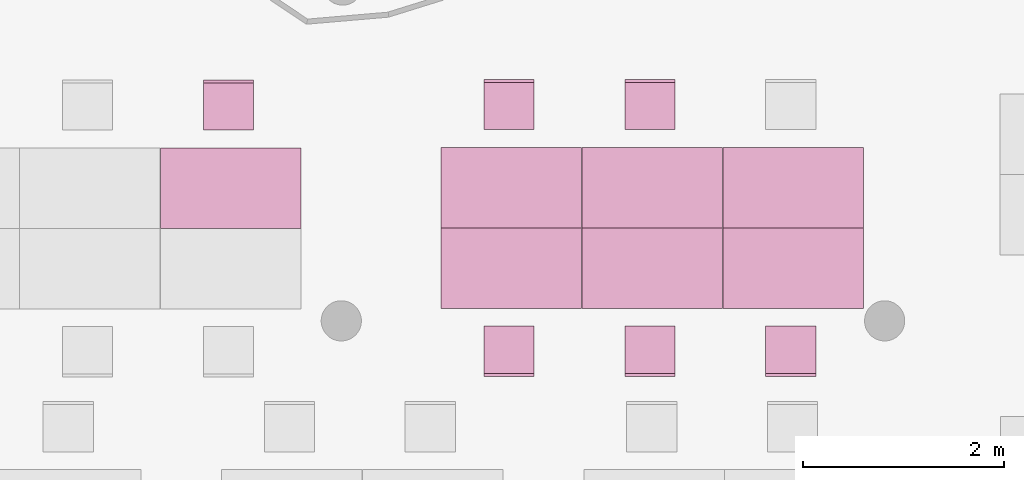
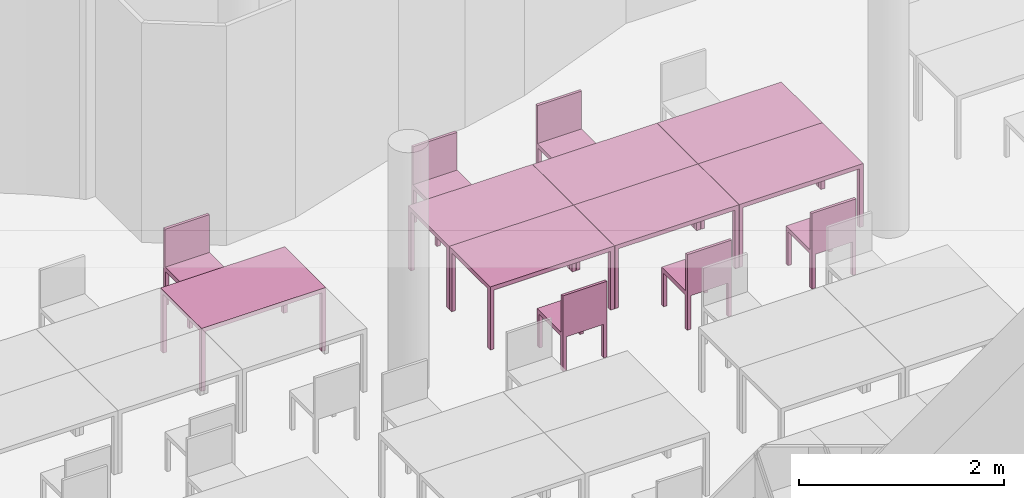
"""IFC4 building model written with IfcOpenShell, lengths in metres."""

from ifc_helpers import new_model, entity, si_unit, converted_unit, derived_unit, frame, origin, place, context, subcontext, project, spatial, faceted_brep, element, save


model = new_model("IFC4")

# Units and contexts
model_context = context("Model", 3, precision=1e-05, world=origin())
body_context = subcontext(model_context, "Body", "Model", "MODEL_VIEW")
ifc_project = project(units=[si_unit("LENGTHUNIT", "METRE"), si_unit("AREAUNIT", "SQUARE_METRE"), si_unit("VOLUMEUNIT", "CUBIC_METRE"), si_unit("MASSUNIT", "GRAM", prefix="KILO"), converted_unit("PLANEANGLEUNIT", "DEGREE", entity("IfcPlaneAngleMeasure", 0.0174532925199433), si_unit("PLANEANGLEUNIT", "RADIAN"), dimensions=[0, 0, 0, 0, 0, 0, 0]), derived_unit("THERMALTRANSMITTANCEUNIT", [(si_unit("POWERUNIT", "WATT"), 1), (si_unit("THERMODYNAMICTEMPERATUREUNIT", "KELVIN"), -1), (si_unit("LENGTHUNIT", "METRE"), -2)]), derived_unit("VOLUMETRICFLOWRATEUNIT", [(si_unit("LENGTHUNIT", "METRE"), 3), (converted_unit("TIMEUNIT", "hour", entity("IfcTimeMeasure", 3600.0), si_unit("TIMEUNIT", "SECOND"), dimensions=[0, 0, 1, 0, 0, 0, 0]), -1), (si_unit("LENGTHUNIT", "METRE"), -1)])], contexts=[model_context])

# Building, storeys
building_placement = place(None, origin())
building = spatial("IfcBuilding", under=ifc_project, at=building_placement, Name="HABITATGE PLURIFAMILIAR", CompositionType="ELEMENT")
storey_1_placement = place(building_placement, frame((0.0, 0.0, 18.29)))
storey_1 = spatial("IfcBuildingStorey", under=building, at=storey_1_placement, Name="PLANTA CINQUENA", CompositionType="ELEMENT", Elevation=18.29)
storey_2_placement = place(storey_1_placement, frame((0.0, 0.0, 15.28)))
storey_2 = spatial("IfcBuildingStorey", under=storey_1, at=storey_2_placement, Name="NOU", CompositionType="PARTIAL")

# Furniture
furniture_1_placement = place(storey_2_placement, frame((408.936421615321, 18.7194567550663, -15.28)))
element("IfcFurniture", 1, at=furniture_1_placement, inside=storey_2, Name="Taula 140X80_P5", context=body_context, shape_type="Brep", body=[
    faceted_brep([(0.04375, 0.05, 0.0), (0.0, 0.05, 0.0), (0.0, 0.0, 0.0), (0.04375, 0.0, 0.0), (0.04375, 0.0, 0.7), (0.0, 0.0, 0.7), (0.0, 0.05, 0.7), (0.04375, 0.05, 0.7)], [[[0, 1, 2, 3]], [[4, 5, 6, 7]], [[3, 4, 7, 0]], [[2, 5, 4, 3]], [[1, 6, 5, 2]], [[0, 7, 6, 1]]], orient=[[False], [False], [False], [False], [False], [False]]),
    faceted_brep([(0.04375, 0.800069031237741, 0.0), (0.0, 0.800069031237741, 0.0), (0.0, 0.750069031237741, 0.0), (0.04375, 0.750069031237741, 0.0), (0.04375, 0.750069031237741, 0.7), (0.0, 0.750069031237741, 0.7), (0.0, 0.800069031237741, 0.7), (0.04375, 0.800069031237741, 0.7)], [[[0, 1, 2, 3]], [[4, 5, 6, 7]], [[3, 4, 7, 0]], [[2, 5, 4, 3]], [[1, 6, 5, 2]], [[0, 7, 6, 1]]], orient=[[False], [False], [False], [False], [False], [False]]),
    faceted_brep([(1.39732768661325, 0.800069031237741, 0.7), (0.0, 0.800069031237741, 0.7), (0.0, 0.0, 0.7), (1.39732768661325, 0.0, 0.7), (1.39732768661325, 0.0, 0.75), (0.0, 0.0, 0.75), (0.0, 0.800069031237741, 0.75), (1.39732768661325, 0.800069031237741, 0.75)], [[[0, 1, 2, 3]], [[4, 5, 6, 7]], [[3, 4, 7, 0]], [[2, 5, 4, 3]], [[1, 6, 5, 2]], [[0, 7, 6, 1]]], orient=[[False], [False], [False], [False], [False], [False]]),
    faceted_brep([(1.39732768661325, 0.05, 0.0), (1.35357768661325, 0.05, 0.0), (1.35357768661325, 0.0, 0.0), (1.39732768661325, 0.0, 0.0), (1.39732768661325, 0.0, 0.7), (1.35357768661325, 0.0, 0.7), (1.35357768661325, 0.05, 0.7), (1.39732768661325, 0.05, 0.7)], [[[0, 1, 2, 3]], [[4, 5, 6, 7]], [[3, 4, 7, 0]], [[2, 5, 4, 3]], [[1, 6, 5, 2]], [[0, 7, 6, 1]]], orient=[[False], [False], [False], [False], [False], [False]]),
    faceted_brep([(1.39732768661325, 0.800069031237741, 0.0), (1.35357768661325, 0.800069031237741, 0.0), (1.35357768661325, 0.750069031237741, 0.0), (1.39732768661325, 0.750069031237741, 0.0), (1.39732768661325, 0.750069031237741, 0.7), (1.35357768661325, 0.750069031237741, 0.7), (1.35357768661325, 0.800069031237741, 0.7), (1.39732768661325, 0.800069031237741, 0.7)], [[[0, 1, 2, 3]], [[4, 5, 6, 7]], [[3, 4, 7, 0]], [[2, 5, 4, 3]], [[1, 6, 5, 2]], [[0, 7, 6, 1]]], orient=[[False], [False], [False], [False], [False], [False]]),
])
furniture_2_placement = place(storey_2_placement, frame((414.528688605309, 18.7239587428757, -15.28)))
element("IfcFurniture", 2, at=furniture_2_placement, inside=storey_2, Name="Taula 140X80_P5", context=body_context, shape_type="Brep", body=[
    faceted_brep([(0.04375, 0.05, 0.0), (0.0, 0.05, 0.0), (0.0, 0.0, 0.0), (0.04375, 0.0, 0.0), (0.04375, 0.0, 0.7), (0.0, 0.0, 0.7), (0.0, 0.05, 0.7), (0.04375, 0.05, 0.7)], [[[0, 1, 2, 3]], [[4, 5, 6, 7]], [[3, 4, 7, 0]], [[2, 5, 4, 3]], [[1, 6, 5, 2]], [[0, 7, 6, 1]]], orient=[[False], [False], [False], [False], [False], [False]]),
    faceted_brep([(0.04375, 0.800069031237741, 0.0), (0.0, 0.800069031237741, 0.0), (0.0, 0.750069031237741, 0.0), (0.04375, 0.750069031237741, 0.0), (0.04375, 0.750069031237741, 0.7), (0.0, 0.750069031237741, 0.7), (0.0, 0.800069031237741, 0.7), (0.04375, 0.800069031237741, 0.7)], [[[0, 1, 2, 3]], [[4, 5, 6, 7]], [[3, 4, 7, 0]], [[2, 5, 4, 3]], [[1, 6, 5, 2]], [[0, 7, 6, 1]]], orient=[[False], [False], [False], [False], [False], [False]]),
    faceted_brep([(1.39732768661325, 0.800069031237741, 0.7), (0.0, 0.800069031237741, 0.7), (0.0, 0.0, 0.7), (1.39732768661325, 0.0, 0.7), (1.39732768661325, 0.0, 0.75), (0.0, 0.0, 0.75), (0.0, 0.800069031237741, 0.75), (1.39732768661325, 0.800069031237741, 0.75)], [[[0, 1, 2, 3]], [[4, 5, 6, 7]], [[3, 4, 7, 0]], [[2, 5, 4, 3]], [[1, 6, 5, 2]], [[0, 7, 6, 1]]], orient=[[False], [False], [False], [False], [False], [False]]),
    faceted_brep([(1.39732768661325, 0.05, 0.0), (1.35357768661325, 0.05, 0.0), (1.35357768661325, 0.0, 0.0), (1.39732768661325, 0.0, 0.0), (1.39732768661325, 0.0, 0.7), (1.35357768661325, 0.0, 0.7), (1.35357768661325, 0.05, 0.7), (1.39732768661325, 0.05, 0.7)], [[[0, 1, 2, 3]], [[4, 5, 6, 7]], [[3, 4, 7, 0]], [[2, 5, 4, 3]], [[1, 6, 5, 2]], [[0, 7, 6, 1]]], orient=[[False], [False], [False], [False], [False], [False]]),
    faceted_brep([(1.39732768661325, 0.800069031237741, 0.0), (1.35357768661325, 0.800069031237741, 0.0), (1.35357768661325, 0.750069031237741, 0.0), (1.39732768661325, 0.750069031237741, 0.0), (1.39732768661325, 0.750069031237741, 0.7), (1.35357768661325, 0.750069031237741, 0.7), (1.35357768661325, 0.800069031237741, 0.7), (1.39732768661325, 0.800069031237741, 0.7)], [[[0, 1, 2, 3]], [[4, 5, 6, 7]], [[3, 4, 7, 0]], [[2, 5, 4, 3]], [[1, 6, 5, 2]], [[0, 7, 6, 1]]], orient=[[False], [False], [False], [False], [False], [False]]),
])
furniture_3_placement = place(storey_2_placement, frame((413.127509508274, 18.7239587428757, -15.28)))
element("IfcFurniture", 3, at=furniture_3_placement, inside=storey_2, Name="Taula 140X80_P5", context=body_context, shape_type="Brep", body=[
    faceted_brep([(0.04375, 0.05, 0.0), (0.0, 0.05, 0.0), (0.0, 0.0, 0.0), (0.04375, 0.0, 0.0), (0.04375, 0.0, 0.7), (0.0, 0.0, 0.7), (0.0, 0.05, 0.7), (0.04375, 0.05, 0.7)], [[[0, 1, 2, 3]], [[4, 5, 6, 7]], [[3, 4, 7, 0]], [[2, 5, 4, 3]], [[1, 6, 5, 2]], [[0, 7, 6, 1]]], orient=[[False], [False], [False], [False], [False], [False]]),
    faceted_brep([(0.04375, 0.800069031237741, 0.0), (0.0, 0.800069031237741, 0.0), (0.0, 0.750069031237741, 0.0), (0.04375, 0.750069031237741, 0.0), (0.04375, 0.750069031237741, 0.7), (0.0, 0.750069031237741, 0.7), (0.0, 0.800069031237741, 0.7), (0.04375, 0.800069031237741, 0.7)], [[[0, 1, 2, 3]], [[4, 5, 6, 7]], [[3, 4, 7, 0]], [[2, 5, 4, 3]], [[1, 6, 5, 2]], [[0, 7, 6, 1]]], orient=[[False], [False], [False], [False], [False], [False]]),
    faceted_brep([(1.39732768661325, 0.800069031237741, 0.7), (0.0, 0.800069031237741, 0.7), (0.0, 0.0, 0.7), (1.39732768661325, 0.0, 0.7), (1.39732768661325, 0.0, 0.75), (0.0, 0.0, 0.75), (0.0, 0.800069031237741, 0.75), (1.39732768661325, 0.800069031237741, 0.75)], [[[0, 1, 2, 3]], [[4, 5, 6, 7]], [[3, 4, 7, 0]], [[2, 5, 4, 3]], [[1, 6, 5, 2]], [[0, 7, 6, 1]]], orient=[[False], [False], [False], [False], [False], [False]]),
    faceted_brep([(1.39732768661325, 0.05, 0.0), (1.35357768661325, 0.05, 0.0), (1.35357768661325, 0.0, 0.0), (1.39732768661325, 0.0, 0.0), (1.39732768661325, 0.0, 0.7), (1.35357768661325, 0.0, 0.7), (1.35357768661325, 0.05, 0.7), (1.39732768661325, 0.05, 0.7)], [[[0, 1, 2, 3]], [[4, 5, 6, 7]], [[3, 4, 7, 0]], [[2, 5, 4, 3]], [[1, 6, 5, 2]], [[0, 7, 6, 1]]], orient=[[False], [False], [False], [False], [False], [False]]),
    faceted_brep([(1.39732768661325, 0.800069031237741, 0.0), (1.35357768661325, 0.800069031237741, 0.0), (1.35357768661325, 0.750069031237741, 0.0), (1.39732768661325, 0.750069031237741, 0.0), (1.39732768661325, 0.750069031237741, 0.7), (1.35357768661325, 0.750069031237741, 0.7), (1.35357768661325, 0.800069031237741, 0.7), (1.39732768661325, 0.800069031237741, 0.7)], [[[0, 1, 2, 3]], [[4, 5, 6, 7]], [[3, 4, 7, 0]], [[2, 5, 4, 3]], [[1, 6, 5, 2]], [[0, 7, 6, 1]]], orient=[[False], [False], [False], [False], [False], [False]]),
])
furniture_4_placement = place(storey_2_placement, frame((414.528688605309, 17.9238897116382, -15.28)))
element("IfcFurniture", 4, at=furniture_4_placement, inside=storey_2, Name="Taula 140X80_P5", context=body_context, shape_type="Brep", body=[
    faceted_brep([(0.04375, 0.750069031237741, 0.0), (0.04375, 0.800069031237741, 0.0), (0.0, 0.800069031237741, 0.0), (0.0, 0.750069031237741, 0.0), (0.04375, 0.800069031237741, 0.7), (0.04375, 0.750069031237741, 0.7), (0.0, 0.750069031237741, 0.7), (0.0, 0.800069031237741, 0.7)], [[[0, 1, 2, 3]], [[4, 5, 6, 7]], [[1, 0, 5, 4]], [[2, 1, 4, 7]], [[3, 2, 7, 6]], [[0, 3, 6, 5]]], orient=[[False], [False], [False], [False], [False], [False]]),
    faceted_brep([(0.04375, 0.0, 0.0), (0.04375, 0.05, 0.0), (0.0, 0.05, 0.0), (0.0, 0.0, 0.0), (0.04375, 0.05, 0.7), (0.04375, 0.0, 0.7), (0.0, 0.0, 0.7), (0.0, 0.05, 0.7)], [[[0, 1, 2, 3]], [[4, 5, 6, 7]], [[1, 0, 5, 4]], [[2, 1, 4, 7]], [[3, 2, 7, 6]], [[0, 3, 6, 5]]], orient=[[False], [False], [False], [False], [False], [False]]),
    faceted_brep([(1.39732768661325, 0.0, 0.7), (1.39732768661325, 0.800069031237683, 0.7), (0.0, 0.800069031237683, 0.7), (0.0, 0.0, 0.7), (1.39732768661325, 0.800069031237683, 0.75), (1.39732768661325, 0.0, 0.75), (0.0, 0.0, 0.75), (0.0, 0.800069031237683, 0.75)], [[[0, 1, 2, 3]], [[4, 5, 6, 7]], [[1, 0, 5, 4]], [[2, 1, 4, 7]], [[3, 2, 7, 6]], [[0, 3, 6, 5]]], orient=[[False], [False], [False], [False], [False], [False]]),
    faceted_brep([(1.39732768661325, 0.750069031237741, 0.0), (1.39732768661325, 0.800069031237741, 0.0), (1.35357768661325, 0.800069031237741, 0.0), (1.35357768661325, 0.750069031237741, 0.0), (1.39732768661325, 0.800069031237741, 0.7), (1.39732768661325, 0.750069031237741, 0.7), (1.35357768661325, 0.750069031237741, 0.7), (1.35357768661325, 0.800069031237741, 0.7)], [[[0, 1, 2, 3]], [[4, 5, 6, 7]], [[1, 0, 5, 4]], [[2, 1, 4, 7]], [[3, 2, 7, 6]], [[0, 3, 6, 5]]], orient=[[False], [False], [False], [False], [False], [False]]),
    faceted_brep([(1.39732768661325, 0.0, 0.0), (1.39732768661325, 0.05, 0.0), (1.35357768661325, 0.05, 0.0), (1.35357768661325, 0.0, 0.0), (1.39732768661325, 0.05, 0.7), (1.39732768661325, 0.0, 0.7), (1.35357768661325, 0.0, 0.7), (1.35357768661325, 0.05, 0.7)], [[[0, 1, 2, 3]], [[4, 5, 6, 7]], [[1, 0, 5, 4]], [[2, 1, 4, 7]], [[3, 2, 7, 6]], [[0, 3, 6, 5]]], orient=[[False], [False], [False], [False], [False], [False]]),
])
furniture_5_placement = place(storey_2_placement, frame((413.127509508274, 17.9238897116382, -15.28)))
element("IfcFurniture", 5, at=furniture_5_placement, inside=storey_2, Name="Taula 140X80_P5", context=body_context, shape_type="Brep", body=[
    faceted_brep([(0.04375, 0.750069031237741, 0.0), (0.04375, 0.800069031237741, 0.0), (0.0, 0.800069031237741, 0.0), (0.0, 0.750069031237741, 0.0), (0.04375, 0.800069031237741, 0.7), (0.04375, 0.750069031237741, 0.7), (0.0, 0.750069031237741, 0.7), (0.0, 0.800069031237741, 0.7)], [[[0, 1, 2, 3]], [[4, 5, 6, 7]], [[1, 0, 5, 4]], [[2, 1, 4, 7]], [[3, 2, 7, 6]], [[0, 3, 6, 5]]], orient=[[False], [False], [False], [False], [False], [False]]),
    faceted_brep([(0.04375, 0.0, 0.0), (0.04375, 0.05, 0.0), (0.0, 0.05, 0.0), (0.0, 0.0, 0.0), (0.04375, 0.05, 0.7), (0.04375, 0.0, 0.7), (0.0, 0.0, 0.7), (0.0, 0.05, 0.7)], [[[0, 1, 2, 3]], [[4, 5, 6, 7]], [[1, 0, 5, 4]], [[2, 1, 4, 7]], [[3, 2, 7, 6]], [[0, 3, 6, 5]]], orient=[[False], [False], [False], [False], [False], [False]]),
    faceted_brep([(1.39732768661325, 0.0, 0.7), (1.39732768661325, 0.800069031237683, 0.7), (0.0, 0.800069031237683, 0.7), (0.0, 0.0, 0.7), (1.39732768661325, 0.800069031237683, 0.75), (1.39732768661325, 0.0, 0.75), (0.0, 0.0, 0.75), (0.0, 0.800069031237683, 0.75)], [[[0, 1, 2, 3]], [[4, 5, 6, 7]], [[1, 0, 5, 4]], [[2, 1, 4, 7]], [[3, 2, 7, 6]], [[0, 3, 6, 5]]], orient=[[False], [False], [False], [False], [False], [False]]),
    faceted_brep([(1.39732768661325, 0.750069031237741, 0.0), (1.39732768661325, 0.800069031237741, 0.0), (1.35357768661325, 0.800069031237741, 0.0), (1.35357768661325, 0.750069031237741, 0.0), (1.39732768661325, 0.800069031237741, 0.7), (1.39732768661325, 0.750069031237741, 0.7), (1.35357768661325, 0.750069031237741, 0.7), (1.35357768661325, 0.800069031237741, 0.7)], [[[0, 1, 2, 3]], [[4, 5, 6, 7]], [[1, 0, 5, 4]], [[2, 1, 4, 7]], [[3, 2, 7, 6]], [[0, 3, 6, 5]]], orient=[[False], [False], [False], [False], [False], [False]]),
    faceted_brep([(1.39732768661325, 0.0, 0.0), (1.39732768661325, 0.05, 0.0), (1.35357768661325, 0.05, 0.0), (1.35357768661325, 0.0, 0.0), (1.39732768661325, 0.05, 0.7), (1.39732768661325, 0.0, 0.7), (1.35357768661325, 0.0, 0.7), (1.35357768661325, 0.05, 0.7)], [[[0, 1, 2, 3]], [[4, 5, 6, 7]], [[1, 0, 5, 4]], [[2, 1, 4, 7]], [[3, 2, 7, 6]], [[0, 3, 6, 5]]], orient=[[False], [False], [False], [False], [False], [False]]),
])
furniture_6_placement = place(storey_2_placement, frame((411.726330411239, 18.7239587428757, -15.28)))
element("IfcFurniture", 6, at=furniture_6_placement, inside=storey_2, Name="Taula 140X80_P5", context=body_context, shape_type="Brep", body=[
    faceted_brep([(0.04375, 0.05, 0.0), (0.0, 0.05, 0.0), (0.0, 0.0, 0.0), (0.04375, 0.0, 0.0), (0.04375, 0.0, 0.7), (0.0, 0.0, 0.7), (0.0, 0.05, 0.7), (0.04375, 0.05, 0.7)], [[[0, 1, 2, 3]], [[4, 5, 6, 7]], [[3, 4, 7, 0]], [[2, 5, 4, 3]], [[1, 6, 5, 2]], [[0, 7, 6, 1]]], orient=[[False], [False], [False], [False], [False], [False]]),
    faceted_brep([(0.04375, 0.800069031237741, 0.0), (0.0, 0.800069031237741, 0.0), (0.0, 0.750069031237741, 0.0), (0.04375, 0.750069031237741, 0.0), (0.04375, 0.750069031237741, 0.7), (0.0, 0.750069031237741, 0.7), (0.0, 0.800069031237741, 0.7), (0.04375, 0.800069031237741, 0.7)], [[[0, 1, 2, 3]], [[4, 5, 6, 7]], [[3, 4, 7, 0]], [[2, 5, 4, 3]], [[1, 6, 5, 2]], [[0, 7, 6, 1]]], orient=[[False], [False], [False], [False], [False], [False]]),
    faceted_brep([(1.39732768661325, 0.800069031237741, 0.7), (0.0, 0.800069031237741, 0.7), (0.0, 0.0, 0.7), (1.39732768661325, 0.0, 0.7), (1.39732768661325, 0.0, 0.75), (0.0, 0.0, 0.75), (0.0, 0.800069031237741, 0.75), (1.39732768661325, 0.800069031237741, 0.75)], [[[0, 1, 2, 3]], [[4, 5, 6, 7]], [[3, 4, 7, 0]], [[2, 5, 4, 3]], [[1, 6, 5, 2]], [[0, 7, 6, 1]]], orient=[[False], [False], [False], [False], [False], [False]]),
    faceted_brep([(1.39732768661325, 0.05, 0.0), (1.35357768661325, 0.05, 0.0), (1.35357768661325, 0.0, 0.0), (1.39732768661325, 0.0, 0.0), (1.39732768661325, 0.0, 0.7), (1.35357768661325, 0.0, 0.7), (1.35357768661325, 0.05, 0.7), (1.39732768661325, 0.05, 0.7)], [[[0, 1, 2, 3]], [[4, 5, 6, 7]], [[3, 4, 7, 0]], [[2, 5, 4, 3]], [[1, 6, 5, 2]], [[0, 7, 6, 1]]], orient=[[False], [False], [False], [False], [False], [False]]),
    faceted_brep([(1.39732768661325, 0.800069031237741, 0.0), (1.35357768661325, 0.800069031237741, 0.0), (1.35357768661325, 0.750069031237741, 0.0), (1.39732768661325, 0.750069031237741, 0.0), (1.39732768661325, 0.750069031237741, 0.7), (1.35357768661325, 0.750069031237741, 0.7), (1.35357768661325, 0.800069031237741, 0.7), (1.39732768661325, 0.800069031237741, 0.7)], [[[0, 1, 2, 3]], [[4, 5, 6, 7]], [[3, 4, 7, 0]], [[2, 5, 4, 3]], [[1, 6, 5, 2]], [[0, 7, 6, 1]]], orient=[[False], [False], [False], [False], [False], [False]]),
])
furniture_7_placement = place(storey_2_placement, frame((411.726330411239, 17.9238897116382, -15.28)))
element("IfcFurniture", 7, at=furniture_7_placement, inside=storey_2, Name="Taula 140X80_P5", context=body_context, shape_type="Brep", body=[
    faceted_brep([(0.04375, 0.750069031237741, 0.0), (0.04375, 0.800069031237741, 0.0), (0.0, 0.800069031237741, 0.0), (0.0, 0.750069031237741, 0.0), (0.04375, 0.800069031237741, 0.7), (0.04375, 0.750069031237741, 0.7), (0.0, 0.750069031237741, 0.7), (0.0, 0.800069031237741, 0.7)], [[[0, 1, 2, 3]], [[4, 5, 6, 7]], [[1, 0, 5, 4]], [[2, 1, 4, 7]], [[3, 2, 7, 6]], [[0, 3, 6, 5]]], orient=[[False], [False], [False], [False], [False], [False]]),
    faceted_brep([(0.04375, 0.0, 0.0), (0.04375, 0.05, 0.0), (0.0, 0.05, 0.0), (0.0, 0.0, 0.0), (0.04375, 0.05, 0.7), (0.04375, 0.0, 0.7), (0.0, 0.0, 0.7), (0.0, 0.05, 0.7)], [[[0, 1, 2, 3]], [[4, 5, 6, 7]], [[1, 0, 5, 4]], [[2, 1, 4, 7]], [[3, 2, 7, 6]], [[0, 3, 6, 5]]], orient=[[False], [False], [False], [False], [False], [False]]),
    faceted_brep([(1.39732768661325, 0.0, 0.7), (1.39732768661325, 0.800069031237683, 0.7), (0.0, 0.800069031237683, 0.7), (0.0, 0.0, 0.7), (1.39732768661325, 0.800069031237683, 0.75), (1.39732768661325, 0.0, 0.75), (0.0, 0.0, 0.75), (0.0, 0.800069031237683, 0.75)], [[[0, 1, 2, 3]], [[4, 5, 6, 7]], [[1, 0, 5, 4]], [[2, 1, 4, 7]], [[3, 2, 7, 6]], [[0, 3, 6, 5]]], orient=[[False], [False], [False], [False], [False], [False]]),
    faceted_brep([(1.39732768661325, 0.750069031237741, 0.0), (1.39732768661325, 0.800069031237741, 0.0), (1.35357768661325, 0.800069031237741, 0.0), (1.35357768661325, 0.750069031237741, 0.0), (1.39732768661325, 0.800069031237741, 0.7), (1.39732768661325, 0.750069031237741, 0.7), (1.35357768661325, 0.750069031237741, 0.7), (1.35357768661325, 0.800069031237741, 0.7)], [[[0, 1, 2, 3]], [[4, 5, 6, 7]], [[1, 0, 5, 4]], [[2, 1, 4, 7]], [[3, 2, 7, 6]], [[0, 3, 6, 5]]], orient=[[False], [False], [False], [False], [False], [False]]),
    faceted_brep([(1.39732768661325, 0.0, 0.0), (1.39732768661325, 0.05, 0.0), (1.35357768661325, 0.05, 0.0), (1.35357768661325, 0.0, 0.0), (1.39732768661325, 0.05, 0.7), (1.39732768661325, 0.0, 0.7), (1.35357768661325, 0.0, 0.7), (1.35357768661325, 0.05, 0.7)], [[[0, 1, 2, 3]], [[4, 5, 6, 7]], [[1, 0, 5, 4]], [[2, 1, 4, 7]], [[3, 2, 7, 6]], [[0, 3, 6, 5]]], orient=[[False], [False], [False], [False], [False], [False]]),
])
furniture_8_placement = place(storey_2_placement, frame((413.552538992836, 19.7007130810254, -15.2746385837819)))
element("IfcFurniture", 8, at=furniture_8_placement, inside=storey_2, Name="Cadira d'Oficina_P5", context=body_context, shape_type="Brep", body=[
    faceted_brep([(0.0, 0.0, 0.4), (0.5, 0.0, 0.4), (0.5, 0.500000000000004, 0.4), (0.0, 0.5, 0.4), (0.0, 0.5, 0.45), (0.5, 0.500000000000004, 0.45), (0.5, 0.0, 0.45), (0.0, 0.0, 0.45)], [[[0, 1, 2, 3]], [[4, 5, 6, 7]], [[3, 4, 7, 0]], [[2, 5, 4, 3]], [[1, 6, 5, 2]], [[0, 7, 6, 1]]], orient=[[False], [False], [False], [False], [False], [False]]),
    faceted_brep([(0.5, 0.460000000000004, 0.0), (0.5, 0.500000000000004, 0.0), (0.46, 0.5, 0.0), (0.46, 0.46, 0.0), (0.46, 0.46, 0.4), (0.46, 0.5, 0.4), (0.5, 0.500000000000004, 0.4), (0.5, 0.460000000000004, 0.4)], [[[0, 1, 2, 3]], [[4, 5, 6, 7]], [[3, 4, 7, 0]], [[2, 5, 4, 3]], [[1, 6, 5, 2]], [[0, 7, 6, 1]]], orient=[[False], [False], [False], [False], [False], [False]]),
    faceted_brep([(0.5, 0.0, 0.0), (0.5, 0.0400000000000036, 0.0), (0.46, 0.04, 0.0), (0.46, 0.0, 0.0), (0.46, 0.0, 0.4), (0.46, 0.04, 0.4), (0.5, 0.0400000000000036, 0.4), (0.5, 0.0, 0.4)], [[[0, 1, 2, 3]], [[4, 5, 6, 7]], [[3, 4, 7, 0]], [[2, 5, 4, 3]], [[1, 6, 5, 2]], [[0, 7, 6, 1]]], orient=[[False], [False], [False], [False], [False], [False]]),
    faceted_brep([(0.04, 0.46, 0.0), (0.04, 0.5, 0.0), (0.0, 0.5, 0.0), (0.0, 0.46, 0.0), (0.0, 0.46, 0.4), (0.0, 0.5, 0.4), (0.04, 0.5, 0.4), (0.04, 0.46, 0.4)], [[[0, 1, 2, 3]], [[4, 5, 6, 7]], [[3, 4, 7, 0]], [[2, 5, 4, 3]], [[1, 6, 5, 2]], [[0, 7, 6, 1]]], orient=[[False], [False], [False], [False], [False], [False]]),
    faceted_brep([(0.04, 0.0, 0.0), (0.04, 0.04, 0.0), (0.0, 0.04, 0.0), (0.0, 0.0, 0.0), (0.0, 0.0, 0.4), (0.0, 0.04, 0.4), (0.04, 0.04, 0.4), (0.04, 0.0, 0.4)], [[[0, 1, 2, 3]], [[4, 5, 6, 7]], [[3, 4, 7, 0]], [[2, 5, 4, 3]], [[1, 6, 5, 2]], [[0, 7, 6, 1]]], orient=[[False], [False], [False], [False], [False], [False]]),
    faceted_brep([(0.5, 0.470000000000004, 0.45), (0.5, 0.500000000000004, 0.45), (0.0, 0.5, 0.45), (0.0, 0.47, 0.45), (0.0, 0.47, 0.9), (0.0, 0.5, 0.9), (0.5, 0.500000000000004, 0.9), (0.5, 0.470000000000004, 0.9)], [[[0, 1, 2, 3]], [[4, 5, 6, 7]], [[3, 4, 7, 0]], [[2, 5, 4, 3]], [[1, 6, 5, 2]], [[0, 7, 6, 1]]], orient=[[False], [False], [False], [False], [False], [False]]),
])
furniture_9_placement = place(storey_2_placement, frame((414.953718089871, 17.2472044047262, -15.2746385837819)))
element("IfcFurniture", 9, at=furniture_9_placement, inside=storey_2, Name="Cadira d'Oficina_P5", context=body_context, shape_type="Brep", body=[
    faceted_brep([(0.0, 0.5, 0.4), (0.0, 0.0, 0.4), (0.5, 0.0, 0.4), (0.5, 0.499999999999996, 0.4), (0.0, 0.0, 0.45), (0.0, 0.5, 0.45), (0.5, 0.499999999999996, 0.45), (0.5, 0.0, 0.45)], [[[0, 1, 2, 3]], [[4, 5, 6, 7]], [[1, 0, 5, 4]], [[2, 1, 4, 7]], [[3, 2, 7, 6]], [[0, 3, 6, 5]]], orient=[[False], [False], [False], [False], [False], [False]]),
    faceted_brep([(0.5, 0.0399999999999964, 0.0), (0.46, 0.04, 0.0), (0.46, 0.0, 0.0), (0.5, 0.0, 0.0), (0.46, 0.04, 0.4), (0.5, 0.0399999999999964, 0.4), (0.5, 0.0, 0.4), (0.46, 0.0, 0.4)], [[[0, 1, 2, 3]], [[4, 5, 6, 7]], [[1, 0, 5, 4]], [[2, 1, 4, 7]], [[3, 2, 7, 6]], [[0, 3, 6, 5]]], orient=[[False], [False], [False], [False], [False], [False]]),
    faceted_brep([(0.5, 0.499999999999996, 0.0), (0.46, 0.5, 0.0), (0.46, 0.46, 0.0), (0.5, 0.459999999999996, 0.0), (0.46, 0.5, 0.4), (0.5, 0.499999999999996, 0.4), (0.5, 0.459999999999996, 0.4), (0.46, 0.46, 0.4)], [[[0, 1, 2, 3]], [[4, 5, 6, 7]], [[1, 0, 5, 4]], [[2, 1, 4, 7]], [[3, 2, 7, 6]], [[0, 3, 6, 5]]], orient=[[False], [False], [False], [False], [False], [False]]),
    faceted_brep([(0.04, 0.04, 0.0), (0.0, 0.04, 0.0), (0.0, 0.0, 0.0), (0.04, 0.0, 0.0), (0.0, 0.04, 0.4), (0.04, 0.04, 0.4), (0.04, 0.0, 0.4), (0.0, 0.0, 0.4)], [[[0, 1, 2, 3]], [[4, 5, 6, 7]], [[1, 0, 5, 4]], [[2, 1, 4, 7]], [[3, 2, 7, 6]], [[0, 3, 6, 5]]], orient=[[False], [False], [False], [False], [False], [False]]),
    faceted_brep([(0.04, 0.5, 0.0), (0.0, 0.5, 0.0), (0.0, 0.46, 0.0), (0.04, 0.46, 0.0), (0.0, 0.5, 0.4), (0.04, 0.5, 0.4), (0.04, 0.46, 0.4), (0.0, 0.46, 0.4)], [[[0, 1, 2, 3]], [[4, 5, 6, 7]], [[1, 0, 5, 4]], [[2, 1, 4, 7]], [[3, 2, 7, 6]], [[0, 3, 6, 5]]], orient=[[False], [False], [False], [False], [False], [False]]),
    faceted_brep([(0.5, 0.0299999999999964, 0.45), (0.0, 0.03, 0.45), (0.0, 0.0, 0.45), (0.5, 0.0, 0.45), (0.0, 0.03, 0.9), (0.5, 0.0299999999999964, 0.9), (0.5, 0.0, 0.9), (0.0, 0.0, 0.9)], [[[0, 1, 2, 3]], [[4, 5, 6, 7]], [[1, 0, 5, 4]], [[2, 1, 4, 7]], [[3, 2, 7, 6]], [[0, 3, 6, 5]]], orient=[[False], [False], [False], [False], [False], [False]]),
])
furniture_10_placement = place(storey_2_placement, frame((413.552538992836, 17.2472044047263, -15.2746385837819)))
element("IfcFurniture", 10, at=furniture_10_placement, inside=storey_2, Name="Cadira d'Oficina_P5", context=body_context, shape_type="Brep", body=[
    faceted_brep([(0.0, 0.5, 0.4), (0.0, 0.0, 0.4), (0.5, 0.0, 0.4), (0.5, 0.499999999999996, 0.4), (0.0, 0.0, 0.45), (0.0, 0.5, 0.45), (0.5, 0.499999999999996, 0.45), (0.5, 0.0, 0.45)], [[[0, 1, 2, 3]], [[4, 5, 6, 7]], [[1, 0, 5, 4]], [[2, 1, 4, 7]], [[3, 2, 7, 6]], [[0, 3, 6, 5]]], orient=[[False], [False], [False], [False], [False], [False]]),
    faceted_brep([(0.5, 0.0399999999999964, 0.0), (0.46, 0.04, 0.0), (0.46, 0.0, 0.0), (0.5, 0.0, 0.0), (0.46, 0.04, 0.4), (0.5, 0.0399999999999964, 0.4), (0.5, 0.0, 0.4), (0.46, 0.0, 0.4)], [[[0, 1, 2, 3]], [[4, 5, 6, 7]], [[1, 0, 5, 4]], [[2, 1, 4, 7]], [[3, 2, 7, 6]], [[0, 3, 6, 5]]], orient=[[False], [False], [False], [False], [False], [False]]),
    faceted_brep([(0.5, 0.499999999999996, 0.0), (0.46, 0.5, 0.0), (0.46, 0.46, 0.0), (0.5, 0.459999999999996, 0.0), (0.46, 0.5, 0.4), (0.5, 0.499999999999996, 0.4), (0.5, 0.459999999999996, 0.4), (0.46, 0.46, 0.4)], [[[0, 1, 2, 3]], [[4, 5, 6, 7]], [[1, 0, 5, 4]], [[2, 1, 4, 7]], [[3, 2, 7, 6]], [[0, 3, 6, 5]]], orient=[[False], [False], [False], [False], [False], [False]]),
    faceted_brep([(0.04, 0.04, 0.0), (0.0, 0.04, 0.0), (0.0, 0.0, 0.0), (0.04, 0.0, 0.0), (0.0, 0.04, 0.4), (0.04, 0.04, 0.4), (0.04, 0.0, 0.4), (0.0, 0.0, 0.4)], [[[0, 1, 2, 3]], [[4, 5, 6, 7]], [[1, 0, 5, 4]], [[2, 1, 4, 7]], [[3, 2, 7, 6]], [[0, 3, 6, 5]]], orient=[[False], [False], [False], [False], [False], [False]]),
    faceted_brep([(0.04, 0.5, 0.0), (0.0, 0.5, 0.0), (0.0, 0.46, 0.0), (0.04, 0.46, 0.0), (0.0, 0.5, 0.4), (0.04, 0.5, 0.4), (0.04, 0.46, 0.4), (0.0, 0.46, 0.4)], [[[0, 1, 2, 3]], [[4, 5, 6, 7]], [[1, 0, 5, 4]], [[2, 1, 4, 7]], [[3, 2, 7, 6]], [[0, 3, 6, 5]]], orient=[[False], [False], [False], [False], [False], [False]]),
    faceted_brep([(0.5, 0.0299999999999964, 0.45), (0.0, 0.03, 0.45), (0.0, 0.0, 0.45), (0.5, 0.0, 0.45), (0.0, 0.03, 0.9), (0.5, 0.0299999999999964, 0.9), (0.5, 0.0, 0.9), (0.0, 0.0, 0.9)], [[[0, 1, 2, 3]], [[4, 5, 6, 7]], [[1, 0, 5, 4]], [[2, 1, 4, 7]], [[3, 2, 7, 6]], [[0, 3, 6, 5]]], orient=[[False], [False], [False], [False], [False], [False]]),
])
furniture_11_placement = place(storey_2_placement, frame((412.1513598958, 19.7007130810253, -15.2746385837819)))
element("IfcFurniture", 11, at=furniture_11_placement, inside=storey_2, Name="Cadira d'Oficina_P5", context=body_context, shape_type="Brep", body=[
    faceted_brep([(0.0, 0.0, 0.4), (0.5, 0.0, 0.4), (0.5, 0.500000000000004, 0.4), (0.0, 0.5, 0.4), (0.0, 0.5, 0.45), (0.5, 0.500000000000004, 0.45), (0.5, 0.0, 0.45), (0.0, 0.0, 0.45)], [[[0, 1, 2, 3]], [[4, 5, 6, 7]], [[3, 4, 7, 0]], [[2, 5, 4, 3]], [[1, 6, 5, 2]], [[0, 7, 6, 1]]], orient=[[False], [False], [False], [False], [False], [False]]),
    faceted_brep([(0.5, 0.460000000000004, 0.0), (0.5, 0.500000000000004, 0.0), (0.46, 0.5, 0.0), (0.46, 0.46, 0.0), (0.46, 0.46, 0.4), (0.46, 0.5, 0.4), (0.5, 0.500000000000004, 0.4), (0.5, 0.460000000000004, 0.4)], [[[0, 1, 2, 3]], [[4, 5, 6, 7]], [[3, 4, 7, 0]], [[2, 5, 4, 3]], [[1, 6, 5, 2]], [[0, 7, 6, 1]]], orient=[[False], [False], [False], [False], [False], [False]]),
    faceted_brep([(0.5, 0.0, 0.0), (0.5, 0.0400000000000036, 0.0), (0.46, 0.04, 0.0), (0.46, 0.0, 0.0), (0.46, 0.0, 0.4), (0.46, 0.04, 0.4), (0.5, 0.0400000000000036, 0.4), (0.5, 0.0, 0.4)], [[[0, 1, 2, 3]], [[4, 5, 6, 7]], [[3, 4, 7, 0]], [[2, 5, 4, 3]], [[1, 6, 5, 2]], [[0, 7, 6, 1]]], orient=[[False], [False], [False], [False], [False], [False]]),
    faceted_brep([(0.04, 0.46, 0.0), (0.04, 0.5, 0.0), (0.0, 0.5, 0.0), (0.0, 0.46, 0.0), (0.0, 0.46, 0.4), (0.0, 0.5, 0.4), (0.04, 0.5, 0.4), (0.04, 0.46, 0.4)], [[[0, 1, 2, 3]], [[4, 5, 6, 7]], [[3, 4, 7, 0]], [[2, 5, 4, 3]], [[1, 6, 5, 2]], [[0, 7, 6, 1]]], orient=[[False], [False], [False], [False], [False], [False]]),
    faceted_brep([(0.04, 0.0, 0.0), (0.04, 0.04, 0.0), (0.0, 0.04, 0.0), (0.0, 0.0, 0.0), (0.0, 0.0, 0.4), (0.0, 0.04, 0.4), (0.04, 0.04, 0.4), (0.04, 0.0, 0.4)], [[[0, 1, 2, 3]], [[4, 5, 6, 7]], [[3, 4, 7, 0]], [[2, 5, 4, 3]], [[1, 6, 5, 2]], [[0, 7, 6, 1]]], orient=[[False], [False], [False], [False], [False], [False]]),
    faceted_brep([(0.5, 0.470000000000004, 0.45), (0.5, 0.500000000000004, 0.45), (0.0, 0.5, 0.45), (0.0, 0.47, 0.45), (0.0, 0.47, 0.9), (0.0, 0.5, 0.9), (0.5, 0.500000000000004, 0.9), (0.5, 0.470000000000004, 0.9)], [[[0, 1, 2, 3]], [[4, 5, 6, 7]], [[3, 4, 7, 0]], [[2, 5, 4, 3]], [[1, 6, 5, 2]], [[0, 7, 6, 1]]], orient=[[False], [False], [False], [False], [False], [False]]),
])
furniture_12_placement = place(storey_2_placement, frame((412.1513598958, 17.2472044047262, -15.2746385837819)))
element("IfcFurniture", 12, at=furniture_12_placement, inside=storey_2, Name="Cadira d'Oficina_P5", context=body_context, shape_type="Brep", body=[
    faceted_brep([(0.0, 0.5, 0.4), (0.0, 0.0, 0.4), (0.5, 0.0, 0.4), (0.5, 0.499999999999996, 0.4), (0.0, 0.0, 0.45), (0.0, 0.5, 0.45), (0.5, 0.499999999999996, 0.45), (0.5, 0.0, 0.45)], [[[0, 1, 2, 3]], [[4, 5, 6, 7]], [[1, 0, 5, 4]], [[2, 1, 4, 7]], [[3, 2, 7, 6]], [[0, 3, 6, 5]]], orient=[[False], [False], [False], [False], [False], [False]]),
    faceted_brep([(0.5, 0.0399999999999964, 0.0), (0.46, 0.04, 0.0), (0.46, 0.0, 0.0), (0.5, 0.0, 0.0), (0.46, 0.04, 0.4), (0.5, 0.0399999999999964, 0.4), (0.5, 0.0, 0.4), (0.46, 0.0, 0.4)], [[[0, 1, 2, 3]], [[4, 5, 6, 7]], [[1, 0, 5, 4]], [[2, 1, 4, 7]], [[3, 2, 7, 6]], [[0, 3, 6, 5]]], orient=[[False], [False], [False], [False], [False], [False]]),
    faceted_brep([(0.5, 0.499999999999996, 0.0), (0.46, 0.5, 0.0), (0.46, 0.46, 0.0), (0.5, 0.459999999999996, 0.0), (0.46, 0.5, 0.4), (0.5, 0.499999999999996, 0.4), (0.5, 0.459999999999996, 0.4), (0.46, 0.46, 0.4)], [[[0, 1, 2, 3]], [[4, 5, 6, 7]], [[1, 0, 5, 4]], [[2, 1, 4, 7]], [[3, 2, 7, 6]], [[0, 3, 6, 5]]], orient=[[False], [False], [False], [False], [False], [False]]),
    faceted_brep([(0.04, 0.04, 0.0), (0.0, 0.04, 0.0), (0.0, 0.0, 0.0), (0.04, 0.0, 0.0), (0.0, 0.04, 0.4), (0.04, 0.04, 0.4), (0.04, 0.0, 0.4), (0.0, 0.0, 0.4)], [[[0, 1, 2, 3]], [[4, 5, 6, 7]], [[1, 0, 5, 4]], [[2, 1, 4, 7]], [[3, 2, 7, 6]], [[0, 3, 6, 5]]], orient=[[False], [False], [False], [False], [False], [False]]),
    faceted_brep([(0.04, 0.5, 0.0), (0.0, 0.5, 0.0), (0.0, 0.46, 0.0), (0.04, 0.46, 0.0), (0.0, 0.5, 0.4), (0.04, 0.5, 0.4), (0.04, 0.46, 0.4), (0.0, 0.46, 0.4)], [[[0, 1, 2, 3]], [[4, 5, 6, 7]], [[1, 0, 5, 4]], [[2, 1, 4, 7]], [[3, 2, 7, 6]], [[0, 3, 6, 5]]], orient=[[False], [False], [False], [False], [False], [False]]),
    faceted_brep([(0.5, 0.0299999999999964, 0.45), (0.0, 0.03, 0.45), (0.0, 0.0, 0.45), (0.5, 0.0, 0.45), (0.0, 0.03, 0.9), (0.5, 0.0299999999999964, 0.9), (0.5, 0.0, 0.9), (0.0, 0.0, 0.9)], [[[0, 1, 2, 3]], [[4, 5, 6, 7]], [[1, 0, 5, 4]], [[2, 1, 4, 7]], [[3, 2, 7, 6]], [[0, 3, 6, 5]]], orient=[[False], [False], [False], [False], [False], [False]]),
])
furniture_13_placement = place(storey_2_placement, frame((409.361451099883, 19.696211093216, -15.2746385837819)))
element("IfcFurniture", 13, at=furniture_13_placement, inside=storey_2, Name="Cadira d'Oficina_P5", context=body_context, shape_type="Brep", body=[
    faceted_brep([(0.0, 0.0, 0.4), (0.5, 0.0, 0.4), (0.5, 0.500000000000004, 0.4), (0.0, 0.5, 0.4), (0.0, 0.5, 0.45), (0.5, 0.500000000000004, 0.45), (0.5, 0.0, 0.45), (0.0, 0.0, 0.45)], [[[0, 1, 2, 3]], [[4, 5, 6, 7]], [[3, 4, 7, 0]], [[2, 5, 4, 3]], [[1, 6, 5, 2]], [[0, 7, 6, 1]]], orient=[[False], [False], [False], [False], [False], [False]]),
    faceted_brep([(0.5, 0.460000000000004, 0.0), (0.5, 0.500000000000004, 0.0), (0.46, 0.5, 0.0), (0.46, 0.46, 0.0), (0.46, 0.46, 0.4), (0.46, 0.5, 0.4), (0.5, 0.500000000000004, 0.4), (0.5, 0.460000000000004, 0.4)], [[[0, 1, 2, 3]], [[4, 5, 6, 7]], [[3, 4, 7, 0]], [[2, 5, 4, 3]], [[1, 6, 5, 2]], [[0, 7, 6, 1]]], orient=[[False], [False], [False], [False], [False], [False]]),
    faceted_brep([(0.5, 0.0, 0.0), (0.5, 0.0400000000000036, 0.0), (0.46, 0.04, 0.0), (0.46, 0.0, 0.0), (0.46, 0.0, 0.4), (0.46, 0.04, 0.4), (0.5, 0.0400000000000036, 0.4), (0.5, 0.0, 0.4)], [[[0, 1, 2, 3]], [[4, 5, 6, 7]], [[3, 4, 7, 0]], [[2, 5, 4, 3]], [[1, 6, 5, 2]], [[0, 7, 6, 1]]], orient=[[False], [False], [False], [False], [False], [False]]),
    faceted_brep([(0.04, 0.46, 0.0), (0.04, 0.5, 0.0), (0.0, 0.5, 0.0), (0.0, 0.46, 0.0), (0.0, 0.46, 0.4), (0.0, 0.5, 0.4), (0.04, 0.5, 0.4), (0.04, 0.46, 0.4)], [[[0, 1, 2, 3]], [[4, 5, 6, 7]], [[3, 4, 7, 0]], [[2, 5, 4, 3]], [[1, 6, 5, 2]], [[0, 7, 6, 1]]], orient=[[False], [False], [False], [False], [False], [False]]),
    faceted_brep([(0.04, 0.0, 0.0), (0.04, 0.04, 0.0), (0.0, 0.04, 0.0), (0.0, 0.0, 0.0), (0.0, 0.0, 0.4), (0.0, 0.04, 0.4), (0.04, 0.04, 0.4), (0.04, 0.0, 0.4)], [[[0, 1, 2, 3]], [[4, 5, 6, 7]], [[3, 4, 7, 0]], [[2, 5, 4, 3]], [[1, 6, 5, 2]], [[0, 7, 6, 1]]], orient=[[False], [False], [False], [False], [False], [False]]),
    faceted_brep([(0.5, 0.470000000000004, 0.45), (0.5, 0.500000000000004, 0.45), (0.0, 0.5, 0.45), (0.0, 0.47, 0.45), (0.0, 0.47, 0.9), (0.0, 0.5, 0.9), (0.5, 0.500000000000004, 0.9), (0.5, 0.470000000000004, 0.9)], [[[0, 1, 2, 3]], [[4, 5, 6, 7]], [[3, 4, 7, 0]], [[2, 5, 4, 3]], [[1, 6, 5, 2]], [[0, 7, 6, 1]]], orient=[[False], [False], [False], [False], [False], [False]]),
])

save(model, "model.ifc")
